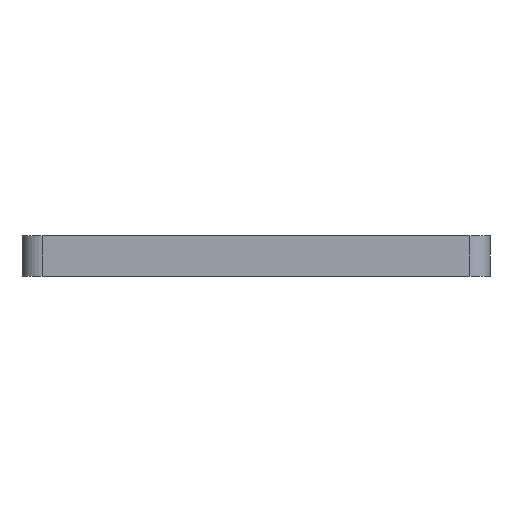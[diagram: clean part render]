
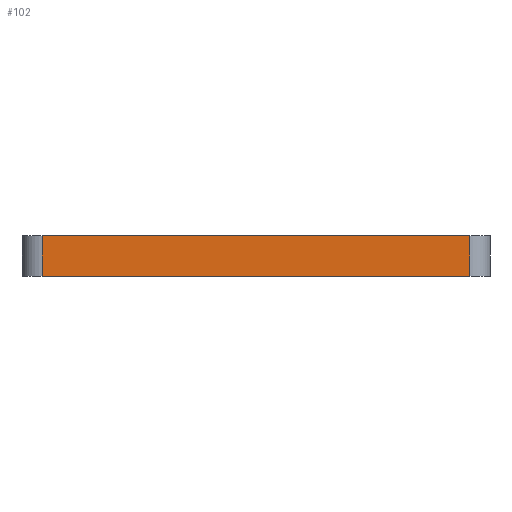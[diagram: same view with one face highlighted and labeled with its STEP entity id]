
A CAD part, left-side view. The second image highlights one B-rep face of the part: STEP entity #102.
In plain terms, the highlighted planar face has unit normal (-1, 0, 0).
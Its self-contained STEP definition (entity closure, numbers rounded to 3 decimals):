
#102=ADVANCED_FACE('23',(#213),#214,.T.);
#213=FACE_OUTER_BOUND('',#331,.T.);
#214=PLANE('',#332);
#331=EDGE_LOOP('',(#704,#705,#706,#707));
#332=AXIS2_PLACEMENT_3D('',#708,#709,#710);
#704=ORIENTED_EDGE('',*,*,#858,.F.);
#705=ORIENTED_EDGE('',*,*,#855,.T.);
#706=ORIENTED_EDGE('',*,*,#860,.F.);
#707=ORIENTED_EDGE('',*,*,#835,.T.);
#708=CARTESIAN_POINT('',(-62.5,17.5,0.0));
#709=DIRECTION('',(-1.0,0.0,0.0));
#710=DIRECTION('',(0.0,1.0,0.0));
#835=EDGE_CURVE('',#984,#982,#985,.T.);
#855=EDGE_CURVE('',#1018,#1016,#1019,.T.);
#858=EDGE_CURVE('',#1018,#982,#1022,.T.);
#860=EDGE_CURVE('',#984,#1016,#1024,.T.);
#982=VERTEX_POINT('',#1439);
#984=VERTEX_POINT('',#1441);
#985=LINE('',#1442,#1443);
#1016=VERTEX_POINT('',#1482);
#1018=VERTEX_POINT('',#1484);
#1019=LINE('',#1485,#1486);
#1022=LINE('',#1489,#1490);
#1024=LINE('',#1492,#1493);
#1439=CARTESIAN_POINT('',(-62.5,33.5,0.0));
#1441=CARTESIAN_POINT('',(-62.5,1.5,0.0));
#1442=CARTESIAN_POINT('',(-62.5,0.,0.0));
#1443=VECTOR('',#1560,1.0);
#1482=CARTESIAN_POINT('',(-62.5,1.5,-3.0));
#1484=CARTESIAN_POINT('',(-62.5,33.5,-3.0));
#1485=CARTESIAN_POINT('',(-62.5,0.,-3.0));
#1486=VECTOR('',#1593,1.0);
#1489=CARTESIAN_POINT('',(-62.5,33.5,0.0));
#1490=VECTOR('',#1597,1.0);
#1492=CARTESIAN_POINT('',(-62.5,1.5,0.0));
#1493=VECTOR('',#1598,1.0);
#1560=DIRECTION('',(0.0,1.0,0.0));
#1593=DIRECTION('',(-0.0,-1.0,-0.0));
#1597=DIRECTION('',(-0.0,-0.0,1.0));
#1598=DIRECTION('',(0.0,-0.0,-1.0));
